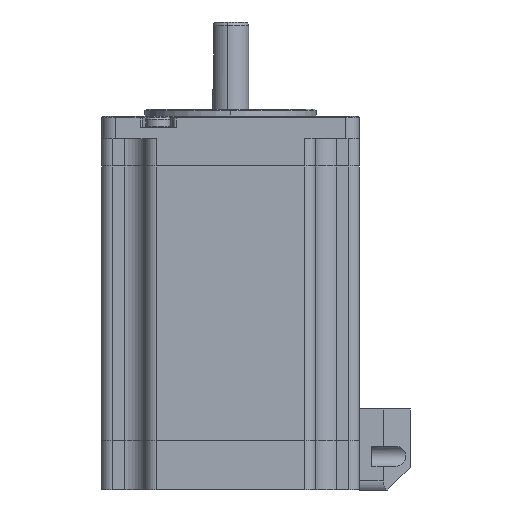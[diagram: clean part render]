
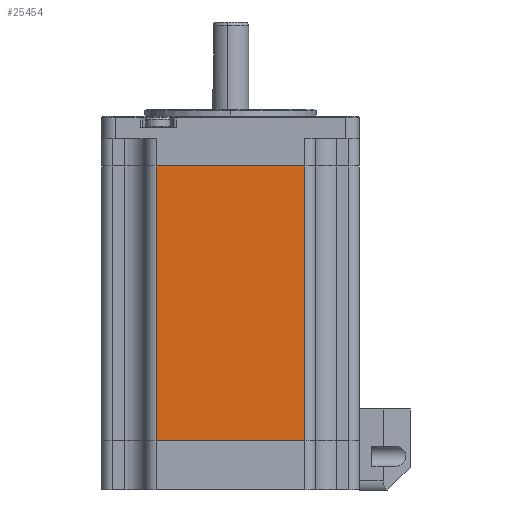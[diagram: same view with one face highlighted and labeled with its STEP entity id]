
A CAD part, left-side view. The second image highlights one B-rep face of the part: STEP entity #25454.
In plain terms, the highlighted planar face has unit normal (-1, 0, 0).
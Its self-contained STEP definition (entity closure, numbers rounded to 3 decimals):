
#953 = CARTESIAN_POINT ( 'NONE',  ( -28.6, -16.5, 26.5 ) ) ;
#1384 = LINE ( 'NONE', #9520, #19424 ) ;
#4991 = VECTOR ( 'NONE', #61009, 1000. ) ;
#5024 = CARTESIAN_POINT ( 'NONE',  ( -28.6, -16.5, 26.5 ) ) ;
#5100 = VERTEX_POINT ( 'NONE', #32043 ) ;
#7078 = EDGE_LOOP ( 'NONE', ( #49373, #56774, #29089, #9806 ) ) ;
#9520 = CARTESIAN_POINT ( 'NONE',  ( -28.6, -16.5, 26.5 ) ) ;
#9806 = ORIENTED_EDGE ( 'NONE', *, *, #50810, .T. ) ;
#9973 = DIRECTION ( 'NONE',  ( 0., -1., 0. ) ) ;
#13773 = EDGE_CURVE ( 'NONE', #55766, #36058, #24361, .T. ) ;
#14495 = FACE_OUTER_BOUND ( 'NONE', #7078, .T. ) ;
#15966 = VERTEX_POINT ( 'NONE', #30118 ) ;
#17654 = VECTOR ( 'NONE', #47525, 1000. ) ;
#19424 = VECTOR ( 'NONE', #9973, 1000. ) ;
#20232 = DIRECTION ( 'NONE',  ( 0., 0., 1. ) ) ;
#24361 = LINE ( 'NONE', #60226, #62706 ) ;
#25454 = ADVANCED_FACE ( 'NONE', ( #14495 ), #51490, .F. ) ;
#27198 = AXIS2_PLACEMENT_3D ( 'NONE', #953, #60871, #35946 ) ;
#29089 = ORIENTED_EDGE ( 'NONE', *, *, #39458, .F. ) ;
#30118 = CARTESIAN_POINT ( 'NONE',  ( -28.6, 16.5, 26.5 ) ) ;
#31974 = CARTESIAN_POINT ( 'NONE',  ( -28.6, -16.5, -34.5 ) ) ;
#32043 = CARTESIAN_POINT ( 'NONE',  ( -28.6, 16.5, -34.5 ) ) ;
#33170 = LINE ( 'NONE', #61454, #4991 ) ;
#34300 = EDGE_CURVE ( 'NONE', #55766, #5100, #44245, .T. ) ;
#35946 = DIRECTION ( 'NONE',  ( 0., 0., -1. ) ) ;
#36058 = VERTEX_POINT ( 'NONE', #5024 ) ;
#39458 = EDGE_CURVE ( 'NONE', #15966, #36058, #1384, .T. ) ;
#42729 = CARTESIAN_POINT ( 'NONE',  ( -28.6, -16.5, -34.5 ) ) ;
#44245 = LINE ( 'NONE', #31974, #17654 ) ;
#47525 = DIRECTION ( 'NONE',  ( 0., 1., 0. ) ) ;
#49373 = ORIENTED_EDGE ( 'NONE', *, *, #34300, .F. ) ;
#50810 = EDGE_CURVE ( 'NONE', #15966, #5100, #33170, .T. ) ;
#51490 = PLANE ( 'NONE',  #27198 ) ;
#55766 = VERTEX_POINT ( 'NONE', #42729 ) ;
#56774 = ORIENTED_EDGE ( 'NONE', *, *, #13773, .T. ) ;
#60226 = CARTESIAN_POINT ( 'NONE',  ( -28.6, -16.5, 26.5 ) ) ;
#60871 = DIRECTION ( 'NONE',  ( 1., 0., 0. ) ) ;
#61009 = DIRECTION ( 'NONE',  ( 0., 0., -1. ) ) ;
#61454 = CARTESIAN_POINT ( 'NONE',  ( -28.6, 16.5, 26.5 ) ) ;
#62706 = VECTOR ( 'NONE', #20232, 1000. ) ;
